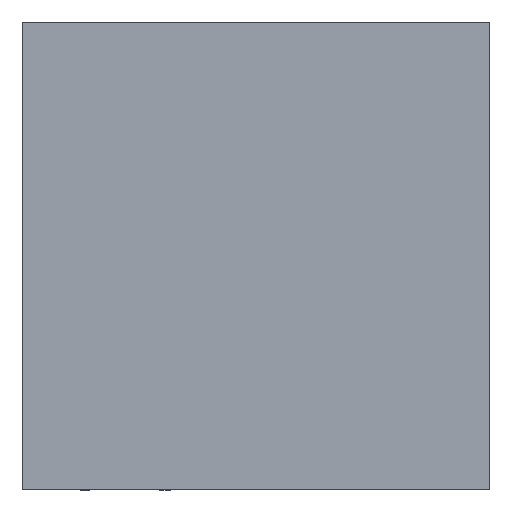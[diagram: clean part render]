
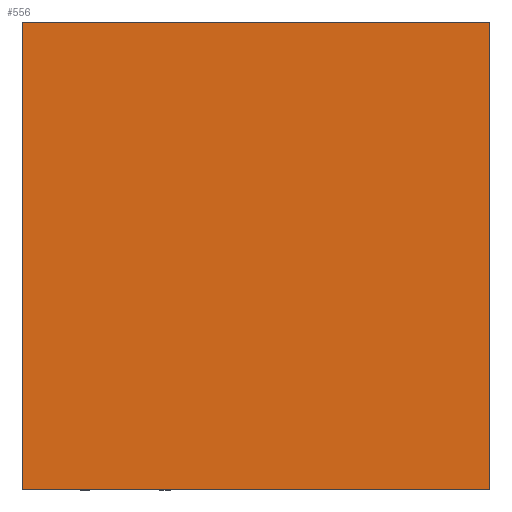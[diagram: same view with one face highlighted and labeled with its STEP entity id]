
A CAD part, front view. The second image highlights one B-rep face of the part: STEP entity #556.
In plain terms, the highlighted planar face has unit normal (0, -1, 0).
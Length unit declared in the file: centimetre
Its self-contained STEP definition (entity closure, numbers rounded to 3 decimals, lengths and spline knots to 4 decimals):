
#2 = FACE_OUTER_BOUND ( 'NONE', #722, .T. ) ;
#19 = VECTOR ( 'NONE', #808, 100. ) ;
#20 = VECTOR ( 'NONE', #573, 100. ) ;
#23 = EDGE_CURVE ( 'NONE', #554, #40, #566, .T. ) ;
#29 = ORIENTED_EDGE ( 'NONE', *, *, #817, .F. ) ;
#40 = VERTEX_POINT ( 'NONE', #501 ) ;
#54 = CARTESIAN_POINT ( 'NONE',  ( 1000., 0., 1000. ) ) ;
#83 = EDGE_CURVE ( 'NONE', #554, #530, #766, .T. ) ;
#175 = LINE ( 'NONE', #54, #20 ) ;
#185 = PLANE ( 'NONE',  #604 ) ;
#189 = DIRECTION ( 'NONE',  ( 0., 0., 1. ) ) ;
#228 = ORIENTED_EDGE ( 'NONE', *, *, #83, .T. ) ;
#244 = DIRECTION ( 'NONE',  ( 0., 1., 0. ) ) ;
#275 = VECTOR ( 'NONE', #570, 100. ) ;
#309 = CARTESIAN_POINT ( 'NONE',  ( 0., 0., 0. ) ) ;
#360 = ORIENTED_EDGE ( 'NONE', *, *, #784, .T. ) ;
#374 = VERTEX_POINT ( 'NONE', #424 ) ;
#424 = CARTESIAN_POINT ( 'NONE',  ( 1000., 0., 0. ) ) ;
#439 = ORIENTED_EDGE ( 'NONE', *, *, #23, .F. ) ;
#501 = CARTESIAN_POINT ( 'NONE',  ( 1000., 0., 1000. ) ) ;
#512 = VECTOR ( 'NONE', #707, 100. ) ;
#530 = VERTEX_POINT ( 'NONE', #533 ) ;
#533 = CARTESIAN_POINT ( 'NONE',  ( 0., 0., 0. ) ) ;
#547 = CARTESIAN_POINT ( 'NONE',  ( 0., 0., 1000. ) ) ;
#554 = VERTEX_POINT ( 'NONE', #576 ) ;
#556 = ADVANCED_FACE ( 'NONE', ( #2 ), #185, .F. ) ;
#566 = LINE ( 'NONE', #547, #19 ) ;
#570 = DIRECTION ( 'NONE',  ( 1., 0., 0. ) ) ;
#573 = DIRECTION ( 'NONE',  ( 0., 0., -1. ) ) ;
#576 = CARTESIAN_POINT ( 'NONE',  ( 0., 0., 1000. ) ) ;
#604 = AXIS2_PLACEMENT_3D ( 'NONE', #836, #244, #189 ) ;
#645 = CARTESIAN_POINT ( 'NONE',  ( 0., 0., 1000. ) ) ;
#706 = LINE ( 'NONE', #309, #275 ) ;
#707 = DIRECTION ( 'NONE',  ( 0., 0., -1. ) ) ;
#722 = EDGE_LOOP ( 'NONE', ( #360, #29, #439, #228 ) ) ;
#766 = LINE ( 'NONE', #645, #512 ) ;
#784 = EDGE_CURVE ( 'NONE', #530, #374, #706, .T. ) ;
#808 = DIRECTION ( 'NONE',  ( 1., 0., 0. ) ) ;
#817 = EDGE_CURVE ( 'NONE', #40, #374, #175, .T. ) ;
#836 = CARTESIAN_POINT ( 'NONE',  ( 0., 0., 1000. ) ) ;
